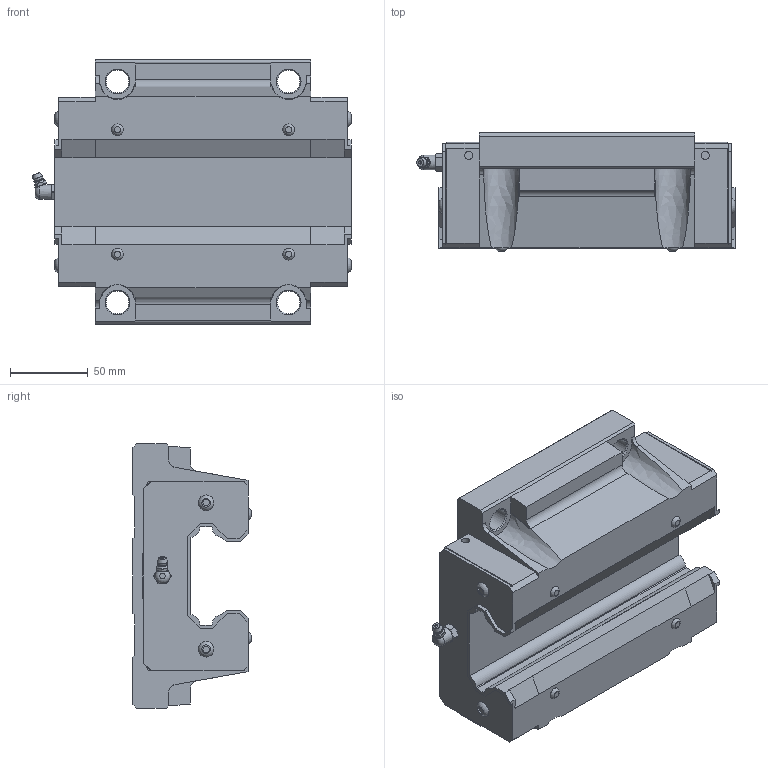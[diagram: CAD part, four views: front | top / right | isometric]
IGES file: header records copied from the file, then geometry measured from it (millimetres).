
Start section: Data from Parasolid IGES Translator 26.0.171, Copyright(c) 2006 Siemens PLM Software. All Rights Reserved.
Global section: file name: HSR65XC1SS(GK) BLOCK(1B-PT1_8).igs; native system: By Siemens PLM Incorporated; preprocessor: XPlus GENERIC/IGES 26.0.171; author: Noname; organization: Noname; date: 20240521.045529; units: millimetre
Bounding box: 204.7 x 76 x 170 mm (x, y, z)
Surface area: 125296.3 mm2 (no closed solid volume)
Topology: 0 solids, 0 shells, 272 faces, 1421 edges, 1368 vertices
Faces by surface type: extrusion 203, revolution 69
